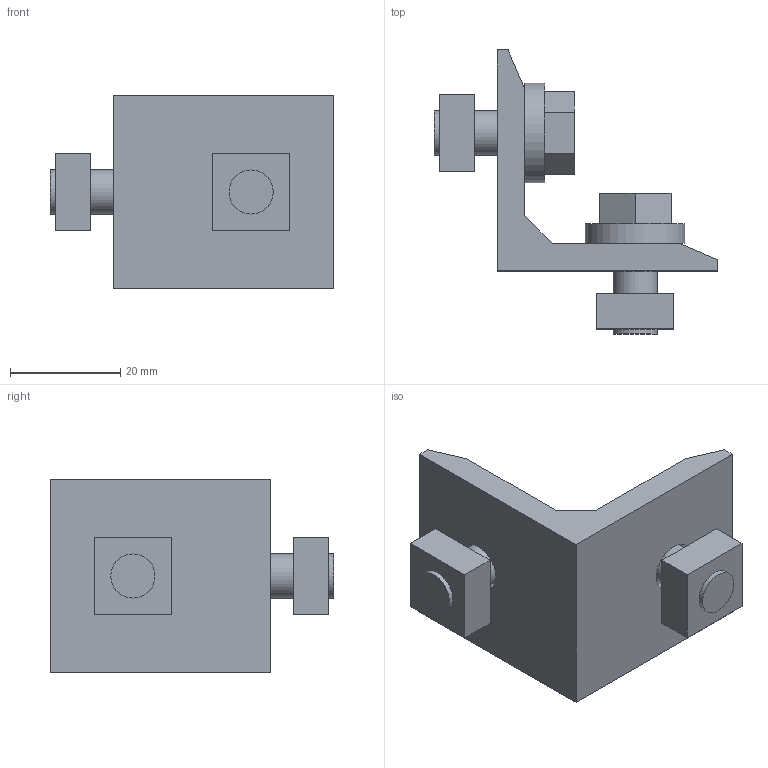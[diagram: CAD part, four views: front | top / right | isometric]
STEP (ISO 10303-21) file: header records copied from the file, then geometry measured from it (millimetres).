
FILE_DESCRIPTION((''),'2;1');
FILE_NAME('C:\Documents and Settings\古川典政\My Documents\Inventor\HP用\MasterData\BRACKET\M8\ABL-4035-8.stp','2008-07-31T10:51:39',(''),(''),'Autodesk Inventor 2008','Autodesk Inventor 2008','');
FILE_SCHEMA(('CONFIG_CONTROL_DESIGN'));
Length unit declared in the file: millimetre
Products named in the file (6): ABL-4035-8; ABL-4035-81; ABL-4035-82; ABL-4035-83; ABL-4035-84; ABL-4035-85
Assembly tree (5 placements, depth 2):
  ABL-4035-8
    ABL-4035-81
    ABL-4035-82
    ABL-4035-83
    ABL-4035-84
    ABL-4035-85
Bounding box: 51.4 x 51.4 x 35 mm (x, y, z)
Volume: 19139.8 mm3; surface area: 10845.1 mm2
Topology: 5 solids, 5 shells, 55 faces, 123 edges, 84 vertices
Faces by surface type: plane 45, cylinder 6, bspline 4
Full cylindrical faces by diameter (mm): 8 x2, 8.4 x2, 18 x2
Entity records: 1648 total; most frequent: CARTESIAN_POINT 319, DIRECTION 251, ORIENTED_EDGE 214, EDGE_CURVE 107, VECTOR 87, LINE 87, AXIS2_PLACEMENT_3D 82, EDGE_LOOP 79
